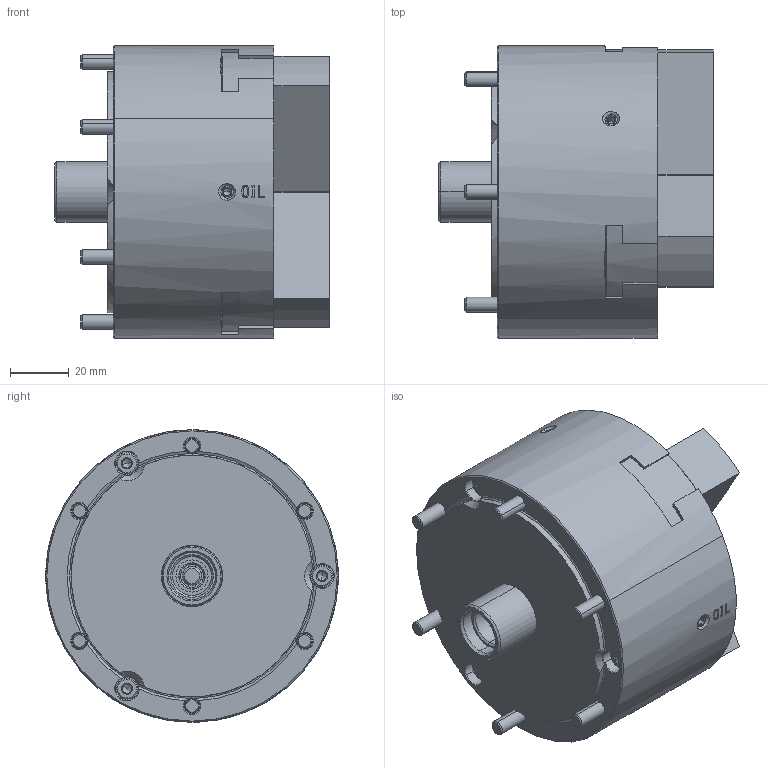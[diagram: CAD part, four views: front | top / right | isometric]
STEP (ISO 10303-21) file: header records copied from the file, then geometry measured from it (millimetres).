
FILE_DESCRIPTION (( 'STEP AP214' ), '1' );
FILE_NAME ('DEV-KPC43C100-OUTSIDE_VIEW_OC.STEP', '2023-12-20T04:13:14', ( '' ), ( '' ), 'SwSTEP 2.0', 'SolidWorks 2022', '' );
FILE_SCHEMA (( 'AUTOMOTIVE_DESIGN' ));
Length unit declared in the file: millimetre
Products named in the file (7): Copy of 0284210012^DEV-KPC43C100-クミタテ; Copy of 61P418231^DEV-KPC43C100-クミタテ; Copy of 61P306265^DEV-KPC43C100-クミタテ; DEV-KPC43C100-OUTSIDE_VIEW_OC; Copy of 0030105016^DEV-KPC43C100-クミタテ; Part1^DEV-KPC43C100-クミタテ; Copy of 0030105060^DEV-KPC43C100-クミタテ
Assembly tree (26 placements, depth 2):
  DEV-KPC43C100-OUTSIDE_VIEW_OC
    Copy of 61P306265^DEV-KPC43C100-クミタテ  x3
    Copy of 61P418231^DEV-KPC43C100-クミタテ
    Copy of 0030105016^DEV-KPC43C100-クミタテ  x6
    Copy of 0284210012^DEV-KPC43C100-クミタテ  x9
    Copy of 0030105060^DEV-KPC43C100-クミタテ  x6
    Part1^DEV-KPC43C100-クミタテ
Bounding box: 94 x 100 x 100 mm (x, y, z)
Volume: 483244.9 mm3; surface area: 79214.9 mm2
Topology: 28 solids, 31 shells, 1768 faces, 4401 edges, 2769 vertices
Faces by surface type: plane 763, cone 443, cylinder 350, bspline 180, torus 32
Entity records: 49921 total; most frequent: CARTESIAN_POINT 16448, ORIENTED_EDGE 7122, DIRECTION 6273, EDGE_CURVE 3561, VERTEX_POINT 2281, AXIS2_PLACEMENT_3D 2116, LINE 2041, VECTOR 2041
